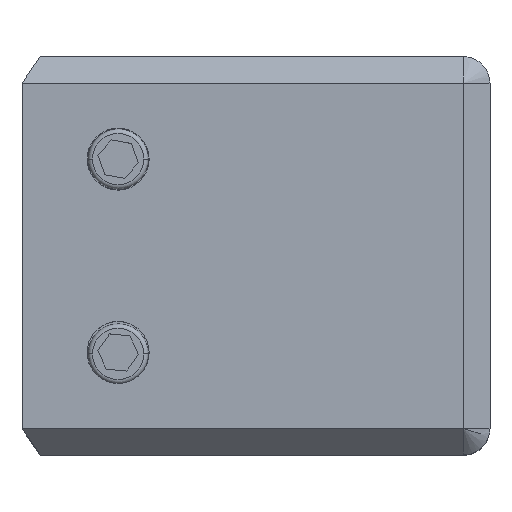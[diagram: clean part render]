
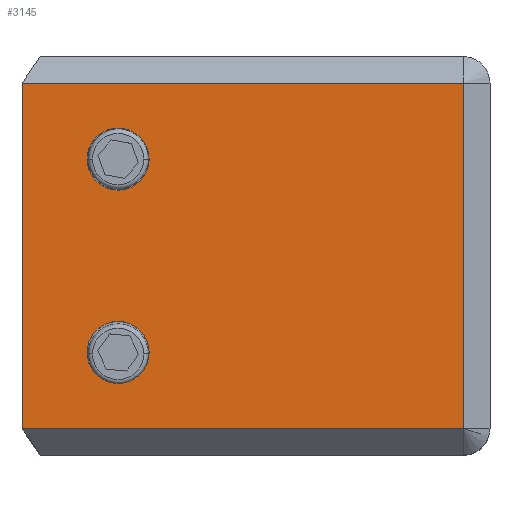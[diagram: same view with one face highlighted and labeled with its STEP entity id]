
A CAD part, top view. The second image highlights one B-rep face of the part: STEP entity #3145.
In plain terms, the highlighted planar face has unit normal (0, 0, 1).
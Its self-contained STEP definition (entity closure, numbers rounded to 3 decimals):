
#11 = ORIENTED_EDGE ( 'NONE', *, *, #2077, .T. ) ;
#161 = EDGE_CURVE ( 'NONE', #1401, #2746, #387, .T. ) ;
#209 = CARTESIAN_POINT ( 'NONE',  ( -42., 10.919, 13.5 ) ) ;
#340 = CARTESIAN_POINT ( 'NONE',  ( -45.5, -10.919, 13.5 ) ) ;
#360 = VECTOR ( 'NONE', #1677, 1000. ) ;
#387 = CIRCLE ( 'NONE', #1240, 3.5 ) ;
#395 = DIRECTION ( 'NONE',  ( 0., 0., 1. ) ) ;
#430 = EDGE_LOOP ( 'NONE', ( #1565, #2294 ) ) ;
#463 = VECTOR ( 'NONE', #824, 1000. ) ;
#545 = DIRECTION ( 'NONE',  ( 0., 0., 1. ) ) ;
#573 = VERTEX_POINT ( 'NONE', #1617 ) ;
#699 = ORIENTED_EDGE ( 'NONE', *, *, #2908, .T. ) ;
#737 = VERTEX_POINT ( 'NONE', #1412 ) ;
#824 = DIRECTION ( 'NONE',  ( -1., 0., 0. ) ) ;
#1052 = CARTESIAN_POINT ( 'NONE',  ( -42., -10.919, 13.5 ) ) ;
#1095 = CARTESIAN_POINT ( 'NONE',  ( -52.854, -39., 13.5 ) ) ;
#1101 = VERTEX_POINT ( 'NONE', #1452 ) ;
#1114 = CARTESIAN_POINT ( 'NONE',  ( 0., 0., 13.5 ) ) ;
#1142 = VERTEX_POINT ( 'NONE', #340 ) ;
#1157 = FACE_OUTER_BOUND ( 'NONE', #1971, .T. ) ;
#1212 = EDGE_CURVE ( 'NONE', #573, #1142, #1789, .T. ) ;
#1220 = CIRCLE ( 'NONE', #2089, 3.5 ) ;
#1240 = AXIS2_PLACEMENT_3D ( 'NONE', #209, #2493, #3997 ) ;
#1401 = VERTEX_POINT ( 'NONE', #1462 ) ;
#1412 = CARTESIAN_POINT ( 'NONE',  ( -3., -19.5, 13.5 ) ) ;
#1452 = CARTESIAN_POINT ( 'NONE',  ( -52.854, 19.5, 13.5 ) ) ;
#1459 = AXIS2_PLACEMENT_3D ( 'NONE', #1114, #545, #3011 ) ;
#1462 = CARTESIAN_POINT ( 'NONE',  ( -38.5, 10.919, 13.5 ) ) ;
#1477 = VECTOR ( 'NONE', #3633, 1000. ) ;
#1565 = ORIENTED_EDGE ( 'NONE', *, *, #1212, .F. ) ;
#1617 = CARTESIAN_POINT ( 'NONE',  ( -38.5, -10.919, 13.5 ) ) ;
#1626 = CARTESIAN_POINT ( 'NONE',  ( -3., 19.5, 13.5 ) ) ;
#1677 = DIRECTION ( 'NONE',  ( 0., 1., 0. ) ) ;
#1718 = ORIENTED_EDGE ( 'NONE', *, *, #2083, .F. ) ;
#1788 = DIRECTION ( 'NONE',  ( 1., 0., 0. ) ) ;
#1789 = CIRCLE ( 'NONE', #4025, 3.5 ) ;
#1815 = FACE_BOUND ( 'NONE', #430, .T. ) ;
#1897 = EDGE_LOOP ( 'NONE', ( #3220, #1718 ) ) ;
#1969 = LINE ( 'NONE', #3555, #360 ) ;
#1971 = EDGE_LOOP ( 'NONE', ( #2665, #699, #11, #3465 ) ) ;
#2007 = VERTEX_POINT ( 'NONE', #3490 ) ;
#2044 = DIRECTION ( 'NONE',  ( 0., 0., 1. ) ) ;
#2077 = EDGE_CURVE ( 'NONE', #737, #3095, #1969, .T. ) ;
#2083 = EDGE_CURVE ( 'NONE', #2746, #1401, #1220, .T. ) ;
#2084 = CIRCLE ( 'NONE', #3328, 3.5 ) ;
#2089 = AXIS2_PLACEMENT_3D ( 'NONE', #2878, #395, #3245 ) ;
#2156 = DIRECTION ( 'NONE',  ( 0., 0., 1. ) ) ;
#2294 = ORIENTED_EDGE ( 'NONE', *, *, #2558, .F. ) ;
#2415 = FACE_BOUND ( 'NONE', #1897, .T. ) ;
#2447 = CARTESIAN_POINT ( 'NONE',  ( -42., -10.919, 13.5 ) ) ;
#2482 = CARTESIAN_POINT ( 'NONE',  ( -3., -19.5, 13.5 ) ) ;
#2493 = DIRECTION ( 'NONE',  ( 0., 0., 1. ) ) ;
#2553 = DIRECTION ( 'NONE',  ( 1., 0., 0. ) ) ;
#2558 = EDGE_CURVE ( 'NONE', #1142, #573, #2084, .T. ) ;
#2658 = LINE ( 'NONE', #1095, #1477 ) ;
#2665 = ORIENTED_EDGE ( 'NONE', *, *, #4058, .F. ) ;
#2677 = PLANE ( 'NONE',  #1459 ) ;
#2746 = VERTEX_POINT ( 'NONE', #2747 ) ;
#2747 = CARTESIAN_POINT ( 'NONE',  ( -45.5, 10.919, 13.5 ) ) ;
#2878 = CARTESIAN_POINT ( 'NONE',  ( -42., 10.919, 13.5 ) ) ;
#2908 = EDGE_CURVE ( 'NONE', #2007, #737, #3462, .T. ) ;
#3011 = DIRECTION ( 'NONE',  ( 1., 0., 0. ) ) ;
#3095 = VERTEX_POINT ( 'NONE', #1626 ) ;
#3145 = ADVANCED_FACE ( 'NONE', ( #2415, #1815, #1157 ), #2677, .T. ) ;
#3220 = ORIENTED_EDGE ( 'NONE', *, *, #161, .F. ) ;
#3226 = EDGE_CURVE ( 'NONE', #3095, #1101, #3301, .T. ) ;
#3245 = DIRECTION ( 'NONE',  ( 1., 0., 0. ) ) ;
#3301 = LINE ( 'NONE', #3672, #463 ) ;
#3328 = AXIS2_PLACEMENT_3D ( 'NONE', #1052, #2044, #1788 ) ;
#3397 = VECTOR ( 'NONE', #3737, 1000. ) ;
#3462 = LINE ( 'NONE', #2482, #3397 ) ;
#3465 = ORIENTED_EDGE ( 'NONE', *, *, #3226, .T. ) ;
#3490 = CARTESIAN_POINT ( 'NONE',  ( -52.854, -19.5, 13.5 ) ) ;
#3555 = CARTESIAN_POINT ( 'NONE',  ( -3., 19.5, 13.5 ) ) ;
#3633 = DIRECTION ( 'NONE',  ( 0., 1., 0. ) ) ;
#3672 = CARTESIAN_POINT ( 'NONE',  ( -52.854, 19.5, 13.5 ) ) ;
#3737 = DIRECTION ( 'NONE',  ( 1., 0., 0. ) ) ;
#3997 = DIRECTION ( 'NONE',  ( 1., 0., 0. ) ) ;
#4025 = AXIS2_PLACEMENT_3D ( 'NONE', #2447, #2156, #2553 ) ;
#4058 = EDGE_CURVE ( 'NONE', #2007, #1101, #2658, .T. ) ;
